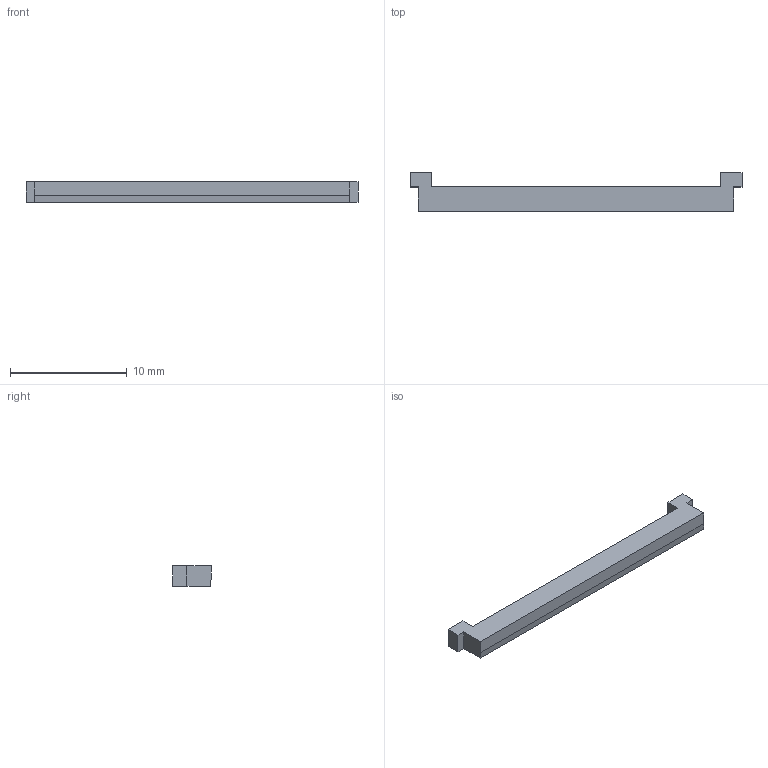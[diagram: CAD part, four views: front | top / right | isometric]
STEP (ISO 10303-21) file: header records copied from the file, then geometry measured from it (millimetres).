
FILE_DESCRIPTION(('Open CASCADE Model'),'2;1');
FILE_NAME('Open CASCADE Shape Model','2026-10-07T16:08:45',('Author'),( 'Open CASCADE'),'Open CASCADE STEP processor 7.9','Open CASCADE 7.9' ,'Unknown');
FILE_SCHEMA(('AUTOMOTIVE_DESIGN { 1 0 10303 214 1 1 1 1 }'));
Length unit declared in the file: millimetre
Products named in the file (1): Open CASCADE STEP translator 7.9 7
Bounding box: 28.4 x 3.26 x 1.75 mm (x, y, z)
Volume: 104.4 mm3; surface area: 233.3 mm2
Topology: 1 solids, 1 shells, 15 faces, 39 edges, 26 vertices
Faces by surface type: plane 15
Entity records: 970 total; most frequent: CARTESIAN_POINT 159, DIRECTION 149, LINE 117, VECTOR 117, ORIENTED_EDGE 78, PCURVE 78, DEFINITIONAL_REPRESENTATION 78, EDGE_CURVE 39
